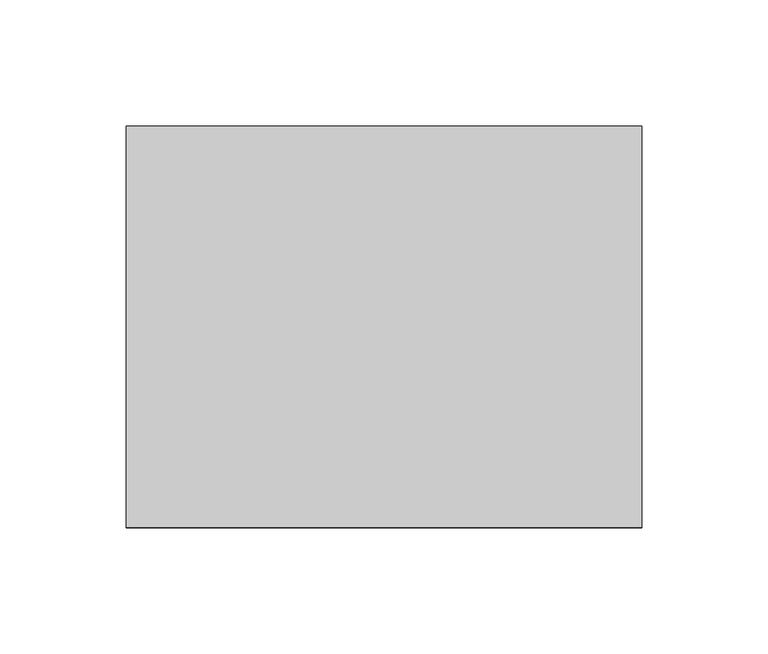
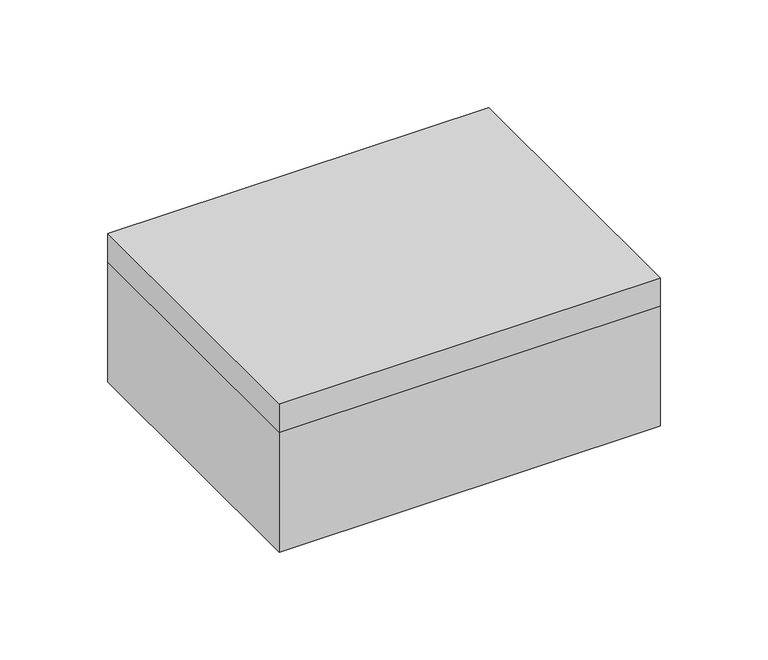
"""IFC4 building model written with IfcOpenShell, lengths in millimetres: cable carrier fitting geometry."""

from ifc_helpers import new_model, si_unit, origin, place, context, project, spatial, faceted_brep, source, transform, mapped, element, save


def cable_carrier_fitting_70828152(model_context):
    return source(origin(), model_context, "Body", "Brep", [
        faceted_brep([(102.0, 79.5, 84.0), (-102.0, 79.5, 84.0), (-102.0, -79.5, 84.0), (102.0, -79.5, 84.0), (-100.0, -77.5, 82.0), (-100.0, 77.5, 82.0), (100.0, 77.5, 82.0), (100.0, -77.5, 82.0), (102.0, 79.5, 68.0), (102.0, -79.5, 68.0), (-102.0, -79.5, 68.0), (-102.0, 79.5, 68.0), (-100.0, -77.5, 68.0), (100.0, -77.5, 68.0), (100.0, 77.5, 68.0), (-100.0, 77.5, 68.0)], [[[0, 1, 2, 3]], [[4, 5, 6, 7]], [[8, 9, 10, 11], [12, 13, 14, 15]], [[1, 0, 8, 11]], [[2, 1, 11, 10]], [[3, 2, 10, 9]], [[0, 3, 9, 8]], [[12, 15, 5, 4]], [[15, 14, 6, 5]], [[14, 13, 7, 6]], [[13, 12, 4, 7]]]),
        faceted_brep([(-100.0, -77.5, 2.0), (100.0, -77.5, 2.0), (100.0, 77.5, 2.0), (-100.0, 77.5, 2.0), (102.0, 79.5, 0.0), (102.0, -79.5, 0.0), (-102.0, -79.5, 0.0), (-102.0, 79.5, 0.0), (102.0, 79.5, 68.0), (-102.0, 79.5, 68.0), (-102.0, -79.5, 68.0), (102.0, -79.5, 68.0), (100.0, -77.5, 68.0), (-100.0, -77.5, 68.0), (-100.0, 77.5, 68.0), (100.0, 77.5, 68.0)], [[[0, 1, 2, 3]], [[4, 5, 6, 7]], [[8, 9, 10, 11], [12, 13, 14, 15]], [[9, 8, 4, 7]], [[10, 9, 7, 6]], [[11, 10, 6, 5]], [[8, 11, 5, 4]], [[13, 12, 1, 0]], [[14, 13, 0, 3]], [[15, 14, 3, 2]], [[12, 15, 2, 1]]]),
    ])


if __name__ == "__main__":
    model = new_model("IFC4")
    model_context = context("Model", 3, world=origin())
    ifc_project = project(units=[si_unit("LENGTHUNIT", "METRE", prefix="MILLI")], contexts=[model_context])
    site = spatial("IfcSite", under=ifc_project)
    building = spatial("IfcBuilding", under=site)
    placement = place(None, origin())
    cable_carrier_fitting_shape = cable_carrier_fitting_70828152(model_context)
    element("IfcCableCarrierFitting", 1, at=placement, inside=building, context=model_context, shape_type="MappedRepresentation", body=[
        mapped(cable_carrier_fitting_shape, transform((0.0, 0.0, 0.0), x_axis=(1.0, 0.0, 0.0), y_axis=(0.0, 1.0, 0.0), z_axis=(0.0, 0.0, 1.0))),
    ])
    save(model, "model.ifc")
